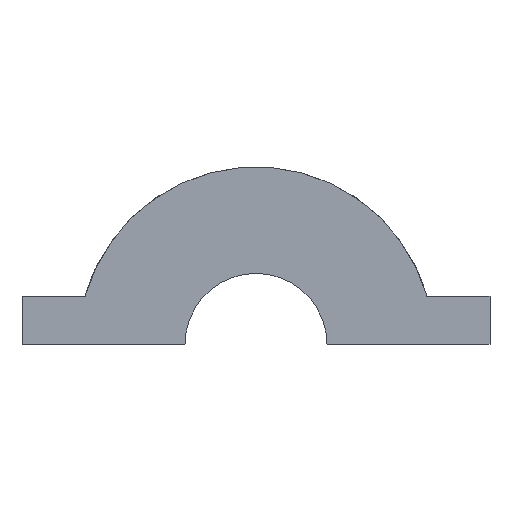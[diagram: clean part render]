
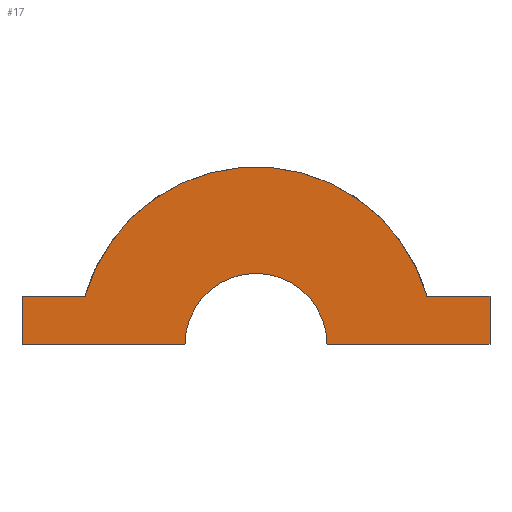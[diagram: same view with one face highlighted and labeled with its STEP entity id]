
A CAD part, front view. The second image highlights one B-rep face of the part: STEP entity #17.
In plain terms, the highlighted planar face has unit normal (0, -1, 0).
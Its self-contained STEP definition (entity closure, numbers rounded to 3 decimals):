
#17 = ADVANCED_FACE('',(#18),#32,.T.);
#18 = FACE_BOUND('',#19,.T.);
#19 = EDGE_LOOP('',(#20,#55,#83,#112,#140,#168,#196,#229));
#20 = ORIENTED_EDGE('',*,*,#21,.T.);
#21 = EDGE_CURVE('',#22,#24,#26,.T.);
#22 = VERTEX_POINT('',#23);
#23 = CARTESIAN_POINT('',(34.5,-69.,43.));
#24 = VERTEX_POINT('',#25);
#25 = CARTESIAN_POINT('',(34.5,-69.,46.));
#26 = SURFACE_CURVE('',#27,(#31,#43),.PCURVE_S1.);
#27 = LINE('',#28,#29);
#28 = CARTESIAN_POINT('',(34.5,-69.,43.));
#29 = VECTOR('',#30,1.);
#30 = DIRECTION('',(0.,0.,1.));
#31 = PCURVE('',#32,#37);
#32 = PLANE('',#33);
#33 = AXIS2_PLACEMENT_3D('',#34,#35,#36);
#34 = CARTESIAN_POINT('',(20.,-69.,43.));
#35 = DIRECTION('',(0.,-1.,0.));
#36 = DIRECTION('',(1.,0.,0.));
#37 = DEFINITIONAL_REPRESENTATION('',(#38),#42);
#38 = LINE('',#39,#40);
#39 = CARTESIAN_POINT('',(14.5,0.));
#40 = VECTOR('',#41,1.);
#41 = DIRECTION('',(0.,1.));
#42 = ( GEOMETRIC_REPRESENTATION_CONTEXT(2) 
PARAMETRIC_REPRESENTATION_CONTEXT() REPRESENTATION_CONTEXT('2D SPACE',''
  ) );
#43 = PCURVE('',#44,#49);
#44 = PLANE('',#45);
#45 = AXIS2_PLACEMENT_3D('',#46,#47,#48);
#46 = CARTESIAN_POINT('',(34.5,-69.,43.));
#47 = DIRECTION('',(1.,0.,0.));
#48 = DIRECTION('',(0.,0.,1.));
#49 = DEFINITIONAL_REPRESENTATION('',(#50),#54);
#50 = LINE('',#51,#52);
#51 = CARTESIAN_POINT('',(0.,0.));
#52 = VECTOR('',#53,1.);
#53 = DIRECTION('',(1.,0.));
#54 = ( GEOMETRIC_REPRESENTATION_CONTEXT(2) 
PARAMETRIC_REPRESENTATION_CONTEXT() REPRESENTATION_CONTEXT('2D SPACE',''
  ) );
#55 = ORIENTED_EDGE('',*,*,#56,.T.);
#56 = EDGE_CURVE('',#24,#57,#59,.T.);
#57 = VERTEX_POINT('',#58);
#58 = CARTESIAN_POINT('',(30.583,-69.,46.));
#59 = SURFACE_CURVE('',#60,(#64,#71),.PCURVE_S1.);
#60 = LINE('',#61,#62);
#61 = CARTESIAN_POINT('',(34.5,-69.,46.));
#62 = VECTOR('',#63,1.);
#63 = DIRECTION('',(-1.,0.,0.));
#64 = PCURVE('',#32,#65);
#65 = DEFINITIONAL_REPRESENTATION('',(#66),#70);
#66 = LINE('',#67,#68);
#67 = CARTESIAN_POINT('',(14.5,3.));
#68 = VECTOR('',#69,1.);
#69 = DIRECTION('',(-1.,0.));
#70 = ( GEOMETRIC_REPRESENTATION_CONTEXT(2) 
PARAMETRIC_REPRESENTATION_CONTEXT() REPRESENTATION_CONTEXT('2D SPACE',''
  ) );
#71 = PCURVE('',#72,#77);
#72 = PLANE('',#73);
#73 = AXIS2_PLACEMENT_3D('',#74,#75,#76);
#74 = CARTESIAN_POINT('',(27.5,-69.,46.));
#75 = DIRECTION('',(0.,0.,1.));
#76 = DIRECTION('',(1.,0.,0.));
#77 = DEFINITIONAL_REPRESENTATION('',(#78),#82);
#78 = LINE('',#79,#80);
#79 = CARTESIAN_POINT('',(7.,0.));
#80 = VECTOR('',#81,1.);
#81 = DIRECTION('',(-1.,0.));
#82 = ( GEOMETRIC_REPRESENTATION_CONTEXT(2) 
PARAMETRIC_REPRESENTATION_CONTEXT() REPRESENTATION_CONTEXT('2D SPACE',''
  ) );
#83 = ORIENTED_EDGE('',*,*,#84,.T.);
#84 = EDGE_CURVE('',#57,#85,#87,.T.);
#85 = VERTEX_POINT('',#86);
#86 = CARTESIAN_POINT('',(9.417,-69.,46.));
#87 = SURFACE_CURVE('',#88,(#93,#100),.PCURVE_S1.);
#88 = CIRCLE('',#89,11.);
#89 = AXIS2_PLACEMENT_3D('',#90,#91,#92);
#90 = CARTESIAN_POINT('',(20.,-69.,43.));
#91 = DIRECTION('',(0.,-1.,0.));
#92 = DIRECTION('',(1.,0.,0.));
#93 = PCURVE('',#32,#94);
#94 = DEFINITIONAL_REPRESENTATION('',(#95),#99);
#95 = CIRCLE('',#96,11.);
#96 = AXIS2_PLACEMENT_2D('',#97,#98);
#97 = CARTESIAN_POINT('',(0.,0.));
#98 = DIRECTION('',(1.,0.));
#99 = ( GEOMETRIC_REPRESENTATION_CONTEXT(2) 
PARAMETRIC_REPRESENTATION_CONTEXT() REPRESENTATION_CONTEXT('2D SPACE',''
  ) );
#100 = PCURVE('',#101,#106);
#101 = CYLINDRICAL_SURFACE('',#102,11.);
#102 = AXIS2_PLACEMENT_3D('',#103,#104,#105);
#103 = CARTESIAN_POINT('',(20.,-67.5,43.));
#104 = DIRECTION('',(-0.,1.,0.));
#105 = DIRECTION('',(1.,0.,0.));
#106 = DEFINITIONAL_REPRESENTATION('',(#107),#111);
#107 = LINE('',#108,#109);
#108 = CARTESIAN_POINT('',(-0.,-1.5));
#109 = VECTOR('',#110,1.);
#110 = DIRECTION('',(-1.,0.));
#111 = ( GEOMETRIC_REPRESENTATION_CONTEXT(2) 
PARAMETRIC_REPRESENTATION_CONTEXT() REPRESENTATION_CONTEXT('2D SPACE',''
  ) );
#112 = ORIENTED_EDGE('',*,*,#113,.T.);
#113 = EDGE_CURVE('',#85,#114,#116,.T.);
#114 = VERTEX_POINT('',#115);
#115 = CARTESIAN_POINT('',(5.5,-69.,46.));
#116 = SURFACE_CURVE('',#117,(#121,#128),.PCURVE_S1.);
#117 = LINE('',#118,#119);
#118 = CARTESIAN_POINT('',(9.417,-69.,46.));
#119 = VECTOR('',#120,1.);
#120 = DIRECTION('',(-1.,0.,0.));
#121 = PCURVE('',#32,#122);
#122 = DEFINITIONAL_REPRESENTATION('',(#123),#127);
#123 = LINE('',#124,#125);
#124 = CARTESIAN_POINT('',(-10.583,3.));
#125 = VECTOR('',#126,1.);
#126 = DIRECTION('',(-1.,0.));
#127 = ( GEOMETRIC_REPRESENTATION_CONTEXT(2) 
PARAMETRIC_REPRESENTATION_CONTEXT() REPRESENTATION_CONTEXT('2D SPACE',''
  ) );
#128 = PCURVE('',#129,#134);
#129 = PLANE('',#130);
#130 = AXIS2_PLACEMENT_3D('',#131,#132,#133);
#131 = CARTESIAN_POINT('',(5.5,-69.,46.));
#132 = DIRECTION('',(0.,0.,1.));
#133 = DIRECTION('',(1.,0.,0.));
#134 = DEFINITIONAL_REPRESENTATION('',(#135),#139);
#135 = LINE('',#136,#137);
#136 = CARTESIAN_POINT('',(3.917,0.));
#137 = VECTOR('',#138,1.);
#138 = DIRECTION('',(-1.,0.));
#139 = ( GEOMETRIC_REPRESENTATION_CONTEXT(2) 
PARAMETRIC_REPRESENTATION_CONTEXT() REPRESENTATION_CONTEXT('2D SPACE',''
  ) );
#140 = ORIENTED_EDGE('',*,*,#141,.F.);
#141 = EDGE_CURVE('',#142,#114,#144,.T.);
#142 = VERTEX_POINT('',#143);
#143 = CARTESIAN_POINT('',(5.5,-69.,43.));
#144 = SURFACE_CURVE('',#145,(#149,#156),.PCURVE_S1.);
#145 = LINE('',#146,#147);
#146 = CARTESIAN_POINT('',(5.5,-69.,43.));
#147 = VECTOR('',#148,1.);
#148 = DIRECTION('',(0.,0.,1.));
#149 = PCURVE('',#32,#150);
#150 = DEFINITIONAL_REPRESENTATION('',(#151),#155);
#151 = LINE('',#152,#153);
#152 = CARTESIAN_POINT('',(-14.5,0.));
#153 = VECTOR('',#154,1.);
#154 = DIRECTION('',(0.,1.));
#155 = ( GEOMETRIC_REPRESENTATION_CONTEXT(2) 
PARAMETRIC_REPRESENTATION_CONTEXT() REPRESENTATION_CONTEXT('2D SPACE',''
  ) );
#156 = PCURVE('',#157,#162);
#157 = PLANE('',#158);
#158 = AXIS2_PLACEMENT_3D('',#159,#160,#161);
#159 = CARTESIAN_POINT('',(5.5,-69.,43.));
#160 = DIRECTION('',(1.,0.,0.));
#161 = DIRECTION('',(0.,0.,1.));
#162 = DEFINITIONAL_REPRESENTATION('',(#163),#167);
#163 = LINE('',#164,#165);
#164 = CARTESIAN_POINT('',(0.,0.));
#165 = VECTOR('',#166,1.);
#166 = DIRECTION('',(1.,0.));
#167 = ( GEOMETRIC_REPRESENTATION_CONTEXT(2) 
PARAMETRIC_REPRESENTATION_CONTEXT() REPRESENTATION_CONTEXT('2D SPACE',''
  ) );
#168 = ORIENTED_EDGE('',*,*,#169,.T.);
#169 = EDGE_CURVE('',#142,#170,#172,.T.);
#170 = VERTEX_POINT('',#171);
#171 = CARTESIAN_POINT('',(15.6,-69.,43.));
#172 = SURFACE_CURVE('',#173,(#177,#184),.PCURVE_S1.);
#173 = LINE('',#174,#175);
#174 = CARTESIAN_POINT('',(5.5,-69.,43.));
#175 = VECTOR('',#176,1.);
#176 = DIRECTION('',(1.,0.,0.));
#177 = PCURVE('',#32,#178);
#178 = DEFINITIONAL_REPRESENTATION('',(#179),#183);
#179 = LINE('',#180,#181);
#180 = CARTESIAN_POINT('',(-14.5,0.));
#181 = VECTOR('',#182,1.);
#182 = DIRECTION('',(1.,0.));
#183 = ( GEOMETRIC_REPRESENTATION_CONTEXT(2) 
PARAMETRIC_REPRESENTATION_CONTEXT() REPRESENTATION_CONTEXT('2D SPACE',''
  ) );
#184 = PCURVE('',#185,#190);
#185 = PLANE('',#186);
#186 = AXIS2_PLACEMENT_3D('',#187,#188,#189);
#187 = CARTESIAN_POINT('',(5.,-71.25,43.));
#188 = DIRECTION('',(0.,0.,1.));
#189 = DIRECTION('',(1.,0.,0.));
#190 = DEFINITIONAL_REPRESENTATION('',(#191),#195);
#191 = LINE('',#192,#193);
#192 = CARTESIAN_POINT('',(0.5,2.25));
#193 = VECTOR('',#194,1.);
#194 = DIRECTION('',(1.,0.));
#195 = ( GEOMETRIC_REPRESENTATION_CONTEXT(2) 
PARAMETRIC_REPRESENTATION_CONTEXT() REPRESENTATION_CONTEXT('2D SPACE',''
  ) );
#196 = ORIENTED_EDGE('',*,*,#197,.T.);
#197 = EDGE_CURVE('',#170,#198,#200,.T.);
#198 = VERTEX_POINT('',#199);
#199 = CARTESIAN_POINT('',(24.4,-69.,43.));
#200 = SURFACE_CURVE('',#201,(#206,#217),.PCURVE_S1.);
#201 = CIRCLE('',#202,4.4);
#202 = AXIS2_PLACEMENT_3D('',#203,#204,#205);
#203 = CARTESIAN_POINT('',(20.,-69.,43.));
#204 = DIRECTION('',(0.,1.,0.));
#205 = DIRECTION('',(1.,0.,0.));
#206 = PCURVE('',#32,#207);
#207 = DEFINITIONAL_REPRESENTATION('',(#208),#216);
#208 = ( BOUNDED_CURVE() B_SPLINE_CURVE(2,(#209,#210,#211,#212,#213,#214
,#215),.UNSPECIFIED.,.T.,.F.) B_SPLINE_CURVE_WITH_KNOTS((1,2,2,2,2,1),(
    -2.094,0.,2.094,4.189,6.283,
8.378),.UNSPECIFIED.) CURVE() GEOMETRIC_REPRESENTATION_ITEM() 
RATIONAL_B_SPLINE_CURVE((1.,0.5,1.,0.5,1.,0.5,1.)) REPRESENTATION_ITEM(
  '') );
#209 = CARTESIAN_POINT('',(4.4,0.));
#210 = CARTESIAN_POINT('',(4.4,-7.621));
#211 = CARTESIAN_POINT('',(-2.2,-3.811));
#212 = CARTESIAN_POINT('',(-8.8,0.));
#213 = CARTESIAN_POINT('',(-2.2,3.811));
#214 = CARTESIAN_POINT('',(4.4,7.621));
#215 = CARTESIAN_POINT('',(4.4,0.));
#216 = ( GEOMETRIC_REPRESENTATION_CONTEXT(2) 
PARAMETRIC_REPRESENTATION_CONTEXT() REPRESENTATION_CONTEXT('2D SPACE',''
  ) );
#217 = PCURVE('',#218,#223);
#218 = CYLINDRICAL_SURFACE('',#219,4.4);
#219 = AXIS2_PLACEMENT_3D('',#220,#221,#222);
#220 = CARTESIAN_POINT('',(20.,-67.5,43.));
#221 = DIRECTION('',(-0.,1.,0.));
#222 = DIRECTION('',(1.,0.,0.));
#223 = DEFINITIONAL_REPRESENTATION('',(#224),#228);
#224 = LINE('',#225,#226);
#225 = CARTESIAN_POINT('',(-6.283,-1.5));
#226 = VECTOR('',#227,1.);
#227 = DIRECTION('',(1.,-0.));
#228 = ( GEOMETRIC_REPRESENTATION_CONTEXT(2) 
PARAMETRIC_REPRESENTATION_CONTEXT() REPRESENTATION_CONTEXT('2D SPACE',''
  ) );
#229 = ORIENTED_EDGE('',*,*,#230,.T.);
#230 = EDGE_CURVE('',#198,#22,#231,.T.);
#231 = SURFACE_CURVE('',#232,(#236,#243),.PCURVE_S1.);
#232 = LINE('',#233,#234);
#233 = CARTESIAN_POINT('',(24.4,-69.,43.));
#234 = VECTOR('',#235,1.);
#235 = DIRECTION('',(1.,0.,0.));
#236 = PCURVE('',#32,#237);
#237 = DEFINITIONAL_REPRESENTATION('',(#238),#242);
#238 = LINE('',#239,#240);
#239 = CARTESIAN_POINT('',(4.4,0.));
#240 = VECTOR('',#241,1.);
#241 = DIRECTION('',(1.,0.));
#242 = ( GEOMETRIC_REPRESENTATION_CONTEXT(2) 
PARAMETRIC_REPRESENTATION_CONTEXT() REPRESENTATION_CONTEXT('2D SPACE',''
  ) );
#243 = PCURVE('',#244,#249);
#244 = PLANE('',#245);
#245 = AXIS2_PLACEMENT_3D('',#246,#247,#248);
#246 = CARTESIAN_POINT('',(5.,-71.25,43.));
#247 = DIRECTION('',(0.,0.,1.));
#248 = DIRECTION('',(1.,0.,0.));
#249 = DEFINITIONAL_REPRESENTATION('',(#250),#254);
#250 = LINE('',#251,#252);
#251 = CARTESIAN_POINT('',(19.4,2.25));
#252 = VECTOR('',#253,1.);
#253 = DIRECTION('',(1.,0.));
#254 = ( GEOMETRIC_REPRESENTATION_CONTEXT(2) 
PARAMETRIC_REPRESENTATION_CONTEXT() REPRESENTATION_CONTEXT('2D SPACE',''
  ) );
